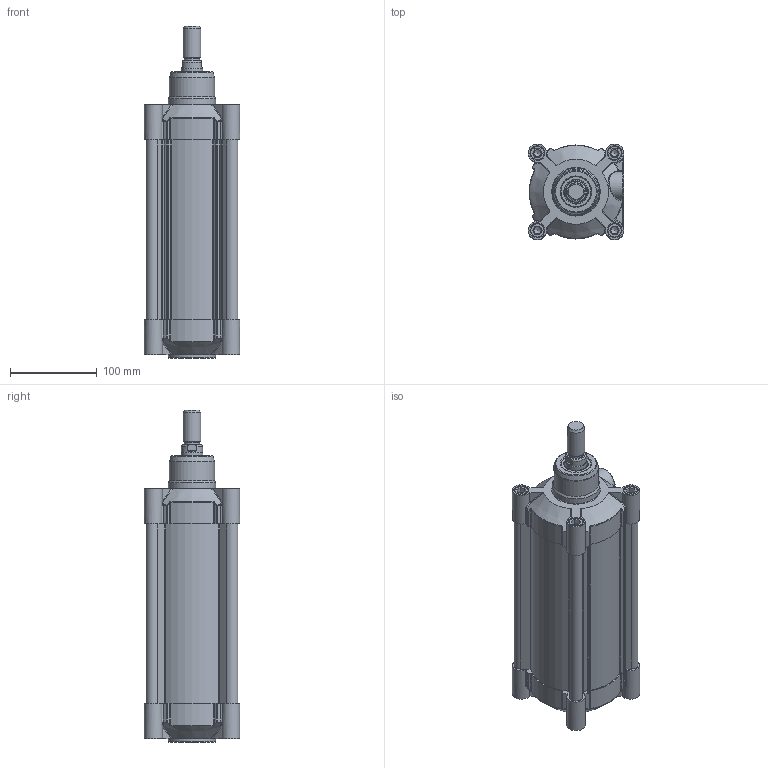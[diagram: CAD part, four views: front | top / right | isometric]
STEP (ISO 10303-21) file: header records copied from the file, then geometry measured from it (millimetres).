
FILE_DESCRIPTION(/* description */ (''),/* implementation_level */ '2;1');
FILE_NAME(/* name */ 'T:\Archivio Inventor\- 00 NUOVI STP PER SITO CON STELO CHE SI MUOVE\SERIE H - U\SERIE HDM\HDM100 - TUBO NUOVO\HDM100.150.GS.M.stp',/* time_stamp */ '2018-08-02T09:31:06+02:00',/* author */ ('carlo.corazza'),/* organization */ (''),/* preprocessor_version */ 'ST-DEVELOPER v16.5',/* originating_system */ 'Autodesk Inventor 2017',/* authorisation */ '');
FILE_SCHEMA (('AUTOMOTIVE_DESIGN { 1 0 10303 214 3 1 1 }'));
Length unit declared in the file: millimetre
Products named in the file (5): HDM100.150.GS.M; TP; TA; STELO-150; CORPO-150
Assembly tree (4 placements, depth 2):
  HDM100.150.GS.M
    TP
    TA
    STELO-150
    CORPO-150
Bounding box: 110 x 110 x 383 mm (x, y, z)
Volume: 1082909.9 mm3; surface area: 429729.1 mm2
Topology: 4 solids, 29 shells, 1355 faces, 3135 edges, 1912 vertices
Faces by surface type: plane 408, cylinder 313, bspline 270, torus 126, cone 122, sphere 116
Full cylindrical faces by diameter (mm): 5 x2, 5.9 x2, 6.5 x2, 7.25 x2, 8.376 x8, 9.4 x4, 10 x8, 10.3 x8, 11.8 x4, 11.9 x2, 12 x4, 16 x9, 16.3 x8, 17 x2, 17.5 x1, 18.631 x2, 20 x1, 24.5 x1, 25 x1, 25.8 x1, 25.962 x1, 30 x1, 31.5 x2, 35 x3, 52 x1, 55 x2, 100 x1
Entity records: 43668 total; most frequent: CARTESIAN_POINT 13702, ORIENTED_EDGE 5710, DIRECTION 5644, EDGE_CURVE 2855, AXIS2_PLACEMENT_3D 2293, VERTEX_POINT 1857, EDGE_LOOP 1690, STYLED_ITEM 1359
